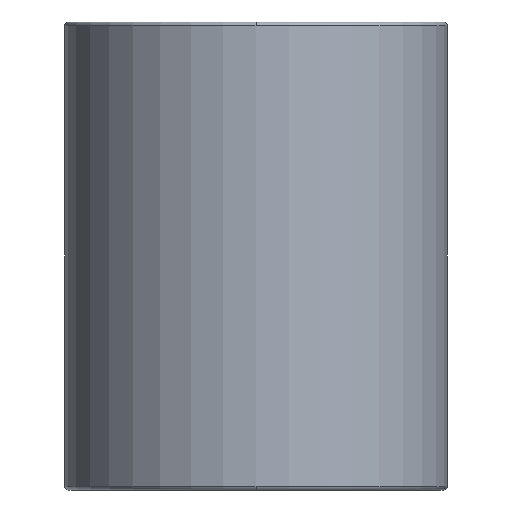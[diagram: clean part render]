
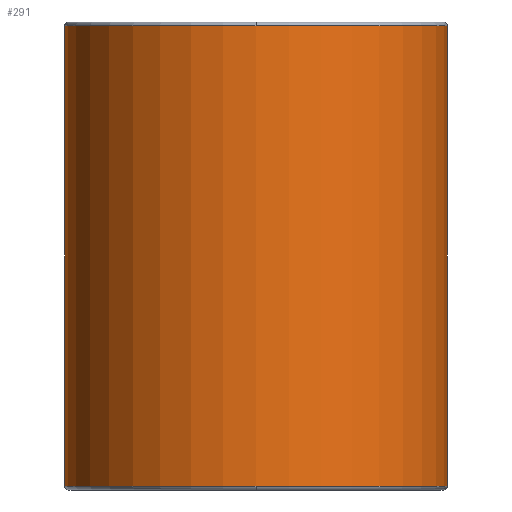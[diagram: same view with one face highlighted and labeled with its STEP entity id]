
A CAD part, front view. The second image highlights one B-rep face of the part: STEP entity #291.
In plain terms, the highlighted cylindrical face has radius 19.625 mm (diameter 39.25 mm), a partial arc.
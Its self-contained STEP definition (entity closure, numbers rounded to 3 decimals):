
#196=CARTESIAN_POINT('',(0.0,-19.625,30.1));
#197=VERTEX_POINT('',#196);
#223=CARTESIAN_POINT('',(-19.625,0.,30.1));
#224=VERTEX_POINT('',#223);
#232=CARTESIAN_POINT('',(0.0,0.,30.1));
#233=DIRECTION('',(0.0,0.0,1.0));
#234=DIRECTION('',(1.0,0.0,0.0));
#235=AXIS2_PLACEMENT_3D('',#232,#233,#234);
#236=CIRCLE('',#235,19.625);
#237=EDGE_CURVE('',#224,#197,#236,.T.);
#242=CARTESIAN_POINT('',(0.0,0.,6.5));
#243=DIRECTION('',(0.0,0.,1.0));
#244=DIRECTION('',(1.0,0.0,0.0));
#245=AXIS2_PLACEMENT_3D('',#242,#243,#244);
#246=CYLINDRICAL_SURFACE('',#245,19.625);
#247=CARTESIAN_POINT('',(19.625,0.,30.1));
#248=VERTEX_POINT('',#247);
#249=CARTESIAN_POINT('',(19.625,0.,-17.1));
#250=VERTEX_POINT('',#249);
#251=CARTESIAN_POINT('',(19.625,0.,30.1));
#252=DIRECTION('',(0.0,0.0,-1.0));
#253=VECTOR('',#252,47.2);
#254=LINE('',#251,#253);
#255=EDGE_CURVE('',#248,#250,#254,.T.);
#256=ORIENTED_EDGE('',*,*,#255,.F.);
#257=CARTESIAN_POINT('',(0.0,0.,30.1));
#258=DIRECTION('',(0.0,0.0,1.0));
#259=DIRECTION('',(1.0,0.0,0.0));
#260=AXIS2_PLACEMENT_3D('',#257,#258,#259);
#261=CIRCLE('',#260,19.625);
#262=EDGE_CURVE('',#197,#248,#261,.T.);
#263=ORIENTED_EDGE('',*,*,#262,.F.);
#264=ORIENTED_EDGE('',*,*,#237,.F.);
#265=CARTESIAN_POINT('',(-19.625,0.,-17.1));
#266=VERTEX_POINT('',#265);
#267=CARTESIAN_POINT('',(-19.625,0.,30.1));
#268=DIRECTION('',(0.0,0.0,-1.0));
#269=VECTOR('',#268,47.2);
#270=LINE('',#267,#269);
#271=EDGE_CURVE('',#224,#266,#270,.T.);
#272=ORIENTED_EDGE('',*,*,#271,.T.);
#273=CARTESIAN_POINT('',(0.0,-19.625,-17.1));
#274=VERTEX_POINT('',#273);
#275=CARTESIAN_POINT('',(0.0,0.,-17.1));
#276=DIRECTION('',(0.0,0.0,1.0));
#277=DIRECTION('',(1.0,0.0,0.0));
#278=AXIS2_PLACEMENT_3D('',#275,#276,#277);
#279=CIRCLE('',#278,19.625);
#280=EDGE_CURVE('',#266,#274,#279,.T.);
#281=ORIENTED_EDGE('',*,*,#280,.T.);
#282=CARTESIAN_POINT('',(0.0,0.,-17.1));
#283=DIRECTION('',(0.0,0.0,1.0));
#284=DIRECTION('',(1.0,0.0,0.0));
#285=AXIS2_PLACEMENT_3D('',#282,#283,#284);
#286=CIRCLE('',#285,19.625);
#287=EDGE_CURVE('',#274,#250,#286,.T.);
#288=ORIENTED_EDGE('',*,*,#287,.T.);
#289=EDGE_LOOP('',(#256,#263,#264,#272,#281,#288));
#290=FACE_OUTER_BOUND('',#289,.T.);
#291=ADVANCED_FACE('',(#290),#246,.T.);
